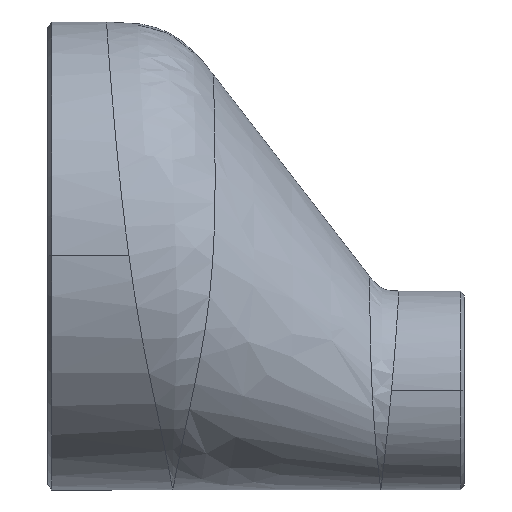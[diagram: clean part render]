
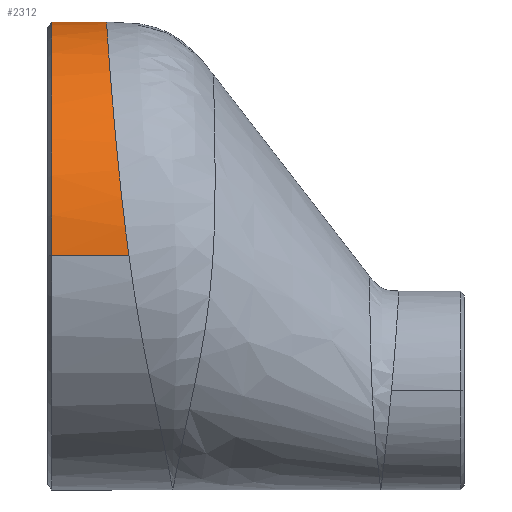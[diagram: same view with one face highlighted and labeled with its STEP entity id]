
A CAD part, top view. The second image highlights one B-rep face of the part: STEP entity #2312.
In plain terms, the highlighted cylindrical face has radius 57.15 mm (diameter 114.3 mm), a partial arc.
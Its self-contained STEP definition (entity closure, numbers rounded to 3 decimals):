
#202 = CARTESIAN_POINT ( 'NONE',  ( 192.125, 0., 57.15 ) ) ;
#262 = EDGE_CURVE ( 'NONE', #348, #1976, #1386, .T. ) ;
#269 = ORIENTED_EDGE ( 'NONE', *, *, #2015, .T. ) ;
#327 = CARTESIAN_POINT ( 'NONE',  ( 0.892, 0., 57.15 ) ) ;
#348 = VERTEX_POINT ( 'NONE', #4235 ) ;
#624 = ORIENTED_EDGE ( 'NONE', *, *, #867, .F. ) ;
#626 = CARTESIAN_POINT ( 'NONE',  ( 15.533, 40.371, 40.452 ) ) ;
#651 = CARTESIAN_POINT ( 'NONE',  ( 15.166, 44.985, 35.297 ) ) ;
#867 = EDGE_CURVE ( 'NONE', #2482, #1668, #1467, .T. ) ;
#922 = AXIS2_PLACEMENT_3D ( 'NONE', #1112, #4384, #3230 ) ;
#955 = CARTESIAN_POINT ( 'NONE',  ( 18.847, 7.047, 56.741 ) ) ;
#969 = CARTESIAN_POINT ( 'NONE',  ( 0.892, 57.15, 0. ) ) ;
#982 = CARTESIAN_POINT ( 'NONE',  ( 19.317, 3.321, 57.062 ) ) ;
#1010 = CARTESIAN_POINT ( 'NONE',  ( 15.789, 37.23, 43.535 ) ) ;
#1039 = CARTESIAN_POINT ( 'NONE',  ( 15.429, 41.662, 39.124 ) ) ;
#1059 = CARTESIAN_POINT ( 'NONE',  ( 19.546, 1.577, 57.128 ) ) ;
#1112 = CARTESIAN_POINT ( 'NONE',  ( 0.892, 0., 0. ) ) ;
#1344 = CIRCLE ( 'NONE', #922, 57.15 ) ;
#1386 = LINE ( 'NONE', #202, #4506 ) ;
#1406 = CARTESIAN_POINT ( 'NONE',  ( 19.65, 0.792, 57.145 ) ) ;
#1440 = CARTESIAN_POINT ( 'NONE',  ( 15.496, 40.827, 39.992 ) ) ;
#1467 = LINE ( 'NONE', #5151, #5106 ) ;
#1490 = DIRECTION ( 'NONE',  ( 1., 0., 0. ) ) ;
#1668 = VERTEX_POINT ( 'NONE', #3081 ) ;
#1731 = FACE_OUTER_BOUND ( 'NONE', #3439, .T. ) ;
#1789 = CARTESIAN_POINT ( 'NONE',  ( 19.75, 0.057, 57.15 ) ) ;
#1824 = DIRECTION ( 'NONE',  ( -1., 0., 0. ) ) ;
#1845 = CARTESIAN_POINT ( 'NONE',  ( 17.64, 17.595, 54.499 ) ) ;
#1976 = VERTEX_POINT ( 'NONE', #327 ) ;
#2015 = EDGE_CURVE ( 'NONE', #2482, #1976, #1344, .T. ) ;
#2058 = DIRECTION ( 'NONE',  ( 0., 0., 1. ) ) ;
#2275 = CARTESIAN_POINT ( 'NONE',  ( 15.08, 46.107, 33.819 ) ) ;
#2298 = AXIS2_PLACEMENT_3D ( 'NONE', #4535, #3357, #2058 ) ;
#2312 = ADVANCED_FACE ( 'NONE', ( #1731 ), #4091, .T. ) ;
#2323 = CARTESIAN_POINT ( 'NONE',  ( 14.282, 57.15, 0. ) ) ;
#2369 = CARTESIAN_POINT ( 'NONE',  ( 14.707, 51.08, 25.909 ) ) ;
#2399 = CARTESIAN_POINT ( 'NONE',  ( 14.84, 49.261, 29.212 ) ) ;
#2482 = VERTEX_POINT ( 'NONE', #969 ) ;
#2588 = CARTESIAN_POINT ( 'NONE',  ( 18.02, 14.084, 55.503 ) ) ;
#2617 = CARTESIAN_POINT ( 'NONE',  ( 19.177, 4.416, 56.986 ) ) ;
#2648 = CARTESIAN_POINT ( 'NONE',  ( 19.754, 0.026, 57.15 ) ) ;
#2674 = CARTESIAN_POINT ( 'NONE',  ( 15.354, 42.597, 38.111 ) ) ;
#2699 = CARTESIAN_POINT ( 'NONE',  ( 19.73, 0.198, 57.15 ) ) ;
#2849 = ORIENTED_EDGE ( 'NONE', *, *, #262, .F. ) ;
#3046 = CARTESIAN_POINT ( 'NONE',  ( 19.474, 2.122, 57.111 ) ) ;
#3075 = CARTESIAN_POINT ( 'NONE',  ( 15.46, 41.267, 39.54 ) ) ;
#3081 = CARTESIAN_POINT ( 'NONE',  ( 14.282, 57.15, 0. ) ) ;
#3102 = CARTESIAN_POINT ( 'NONE',  ( 19.757, 0., 57.15 ) ) ;
#3226 = CARTESIAN_POINT ( 'NONE',  ( 14.308, 56.749, 7.772 ) ) ;
#3230 = DIRECTION ( 'NONE',  ( 0., 0., -1. ) ) ;
#3357 = DIRECTION ( 'NONE',  ( -1., 0., 0. ) ) ;
#3420 = CARTESIAN_POINT ( 'NONE',  ( 19.605, 1.132, 57.139 ) ) ;
#3439 = EDGE_LOOP ( 'NONE', ( #2849, #3471, #624, #269 ) ) ;
#3447 = CARTESIAN_POINT ( 'NONE',  ( 16.624, 27.81, 50.072 ) ) ;
#3471 = ORIENTED_EDGE ( 'NONE', *, *, #5117, .T. ) ;
#3473 = CARTESIAN_POINT ( 'NONE',  ( 15.512, 40.625, 40.196 ) ) ;
#3498 = CARTESIAN_POINT ( 'NONE',  ( 19.56, 1.471, 57.131 ) ) ;
#3531 = B_SPLINE_CURVE_WITH_KNOTS ( 'NONE', 3,
 ( #3102, #2648, #1789, #4642, #2699, #5038, #1406, #3420, #3498, #1059, #4332, #3046, #982, #2617, #955, #3856, #2588, #1845, #4670, #3447, #4254, #1010, #4285, #626, #4701, #3473, #5095, #1440, #3075, #1039, #2674, #4309, #651, #2275, #2399, #2369, #4847, #3549, #3226, #5150, #2323 ),
 .UNSPECIFIED., .F., .F.,
 ( 4, 2, 1, 1, 1, 2, 2, 1, 1, 2, 2, 2, 2, 2, 2, 2, 1, 1, 2, 2, 2, 2, 2, 4 ),
 ( 0.492, 0.492, 0.493, 0.494, 0.496, 0.5, 0.502, 0.504, 0.508, 0.524, 0.555, 0.619, 0.682, 0.746, 0.75, 0.751, 0.752, 0.754, 0.762, 0.778, 0.809, 0.873, 0.936, 1. ),
 .UNSPECIFIED. ) ;
#3549 = CARTESIAN_POINT ( 'NONE',  ( 14.415, 55.198, 15.298 ) ) ;
#3856 = CARTESIAN_POINT ( 'NONE',  ( 18.634, 8.808, 56.496 ) ) ;
#4091 = CYLINDRICAL_SURFACE ( 'NONE', #2298, 57.15 ) ;
#4235 = CARTESIAN_POINT ( 'NONE',  ( 19.757, 0., 57.15 ) ) ;
#4254 = CARTESIAN_POINT ( 'NONE',  ( 16.047, 34.196, 45.948 ) ) ;
#4285 = CARTESIAN_POINT ( 'NONE',  ( 15.547, 40.198, 40.624 ) ) ;
#4309 = CARTESIAN_POINT ( 'NONE',  ( 15.306, 43.206, 37.419 ) ) ;
#4332 = CARTESIAN_POINT ( 'NONE',  ( 19.517, 1.795, 57.122 ) ) ;
#4384 = DIRECTION ( 'NONE',  ( 1., 0., 0. ) ) ;
#4506 = VECTOR ( 'NONE', #1824, 1000. ) ;
#4535 = CARTESIAN_POINT ( 'NONE',  ( 192.125, 0., 0. ) ) ;
#4642 = CARTESIAN_POINT ( 'NONE',  ( 19.742, 0.113, 57.15 ) ) ;
#4670 = CARTESIAN_POINT ( 'NONE',  ( 16.942, 24.458, 51.784 ) ) ;
#4701 = CARTESIAN_POINT ( 'NONE',  ( 15.515, 40.587, 40.235 ) ) ;
#4847 = CARTESIAN_POINT ( 'NONE',  ( 14.495, 54.049, 18.952 ) ) ;
#5038 = CARTESIAN_POINT ( 'NONE',  ( 19.704, 0.396, 57.149 ) ) ;
#5095 = CARTESIAN_POINT ( 'NONE',  ( 15.506, 40.706, 40.114 ) ) ;
#5106 = VECTOR ( 'NONE', #1490, 1000. ) ;
#5117 = EDGE_CURVE ( 'NONE', #348, #1668, #3531, .T. ) ;
#5150 = CARTESIAN_POINT ( 'NONE',  ( 14.282, 57.15, 3.902 ) ) ;
#5151 = CARTESIAN_POINT ( 'NONE',  ( 192.125, 57.15, 0. ) ) ;
